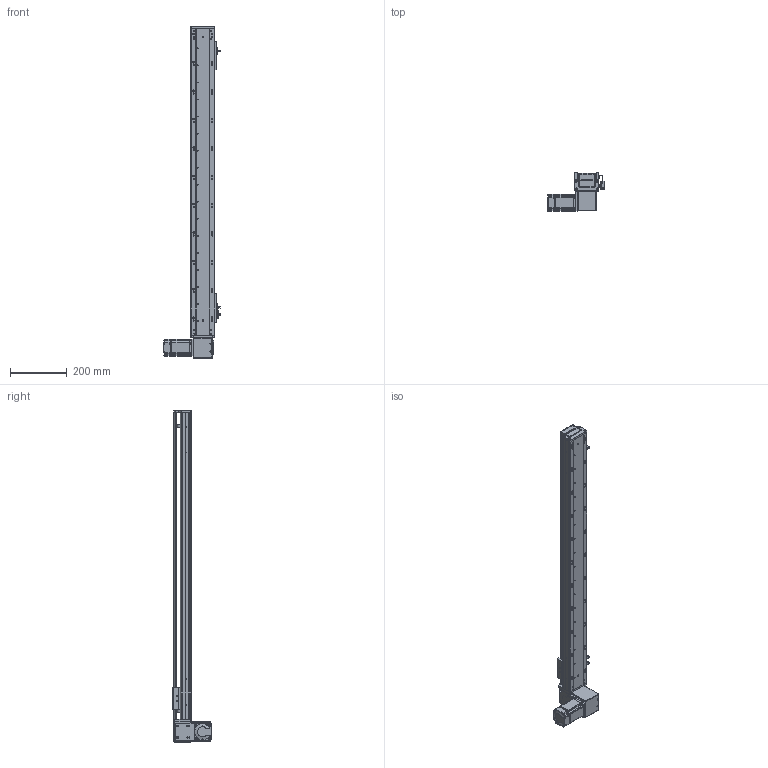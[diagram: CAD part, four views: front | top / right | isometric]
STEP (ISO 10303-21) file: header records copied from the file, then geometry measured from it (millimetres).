
FILE_DESCRIPTION (( 'STEP AP203' ), '1' );
FILE_NAME ('RY80-T-300-DL.SLDASM_900.step', '2021-03-01T01:38:25', ( '盈信电脑' ), ( '东莞市道滘镇水果街19号' ), 'SwSTEP 2.0', 'SolidWorks 2012', '' );
FILE_SCHEMA (( 'CONFIG_CONTROL_DESIGN' ));
Length unit declared in the file: millimetre
Products named in the file (19): RY80-T肮祭謫狟殏俋欶; RY80-T-上下折同步轮盖板; RY80-T-300-DL.SLDASM_900; RY100-T粣創揤踡裔; RY80-T-M4蹟翐3; 滅袉蝶18-10; RY80-T萇儂假蚾啣; 1; RY80-T翋肮祭謫裔啣; RY80-T肮祭湍揤輸2; RY80-T-翋肮祭謫釱; RY80-T肮祭湍揤輸1; 672嫖萇羲壽假蚾釱; 覜茼ん672; RY80俋离覜茼え; RY80-T綴裔啣; RY80-T-300-DL倰第菁釱_900; RY80-T肮祭謫臏賑輸; RY80-T-300-DL倰第奻裔啣_900
Assembly tree (24 placements, depth 2):
  RY80-T-300-DL.SLDASM_900
    RY80-T-300-DL倰第菁釱_900
    RY80-T肮祭謫臏賑輸
    RY80-T-300-DL倰第奻裔啣_900
    RY80-T綴裔啣
    672嫖萇羲壽假蚾釱  x2
    覜茼ん672  x3
    RY80俋离覜茼え
    RY80-T-翋肮祭謫釱
    RY80-T肮祭湍揤輸1
    RY80-T肮祭湍揤輸2
    RY80-T萇儂假蚾啣
    RY80-T翋肮祭謫裔啣  x2
    滅袉蝶18-10  x2
    1
    RY80-T肮祭謫狟殏俋欶
    RY80-T-M4蹟翐3  x2
    RY80-T-上下折同步轮盖板
    RY100-T粣創揤踡裔
Bounding box: 198.7 x 134.5 x 1170 mm (x, y, z)
Volume: 2051244.2 mm3; surface area: 867033.2 mm2
Topology: 24 solids, 24 shells, 2637 faces, 7307 edges, 4747 vertices
Faces by surface type: plane 1375, cylinder 1054, cone 152, bspline 56
Entity records: 84481 total; most frequent: CARTESIAN_POINT 21466, ORIENTED_EDGE 13058, DIRECTION 12090, EDGE_CURVE 6529, VERTEX_POINT 4288, AXIS2_PLACEMENT_3D 4100, LINE 3890, VECTOR 3890
